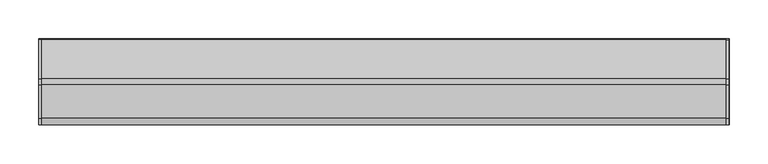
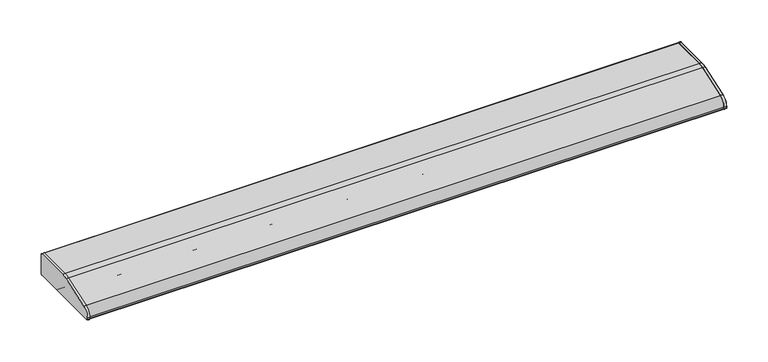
"""IFC4 building model written with IfcOpenShell, lengths in millimetres: light fixture geometry, HermanMiller_SupplementalProducts_G6136_UtilityTaskLight : AO Etho Canvas 42W."""

from ifc_helpers import new_model, si_unit, point, frame, frame_2d, origin, place, context, project, spatial, polyline, circle_curve, trimmed, segment, composite_curve, outline, extrude, source, transform, mapped, element, save


def light_fixture_d51b2d7c(model_context):
    return source(origin(), model_context, "Body", "SweptSolid", [
        extrude(outline(composite_curve([segment(polyline([(53.975, 1321.46802), (-53.975, 1321.46802)]), True, "CONTINUOUS"), segment(trimmed(circle_curve(frame_2d((-53.975, 1323.05552)), 1.5875), [point((-53.975, 1321.46802))], [point((-55.5625, 1323.05552))], False, "CARTESIAN"), True, "CONTINUOUS"), segment(polyline([(-55.5625, 1323.05552), (-55.5625, 1325.0965914)]), True, "CONTINUOUS"), segment(trimmed(circle_curve(frame_2d((-42.8625, 1325.0965914)), 12.7), [point((-55.5625, 1325.0965914))], [point((-46.9814189, 1337.1101049))], False, "CARTESIAN"), True, "CONTINUOUS"), segment(polyline([(-46.9814189, 1337.1101049), (-4.0045045, 1351.845047)]), True, "CONTINUOUS"), segment(trimmed(circle_curve(frame_2d((4.2333333, 1327.81802)), 25.4), [point((-4.0045045, 1351.845047))], [point((4.2333333, 1353.21802))], False, "CARTESIAN"), True, "CONTINUOUS"), segment(polyline([(4.2333333, 1353.21802), (53.975, 1353.21802)]), True, "CONTINUOUS"), segment(trimmed(circle_curve(frame_2d((53.975, 1351.63052)), 1.5875), [point((53.975, 1353.21802))], [point((55.5625, 1351.63052))], False, "CARTESIAN"), True, "CONTINUOUS"), segment(polyline([(55.5625, 1351.63052), (55.5625, 1323.05552)]), True, "CONTINUOUS"), segment(trimmed(circle_curve(frame_2d((53.975, 1323.05552)), 1.5875), [point((55.5625, 1323.05552))], [point((53.975, 1321.46802))], False, "CARTESIAN"), True, "CONTINUOUS")], self_intersect=False)), frame((441.833, 0.0, 0.0), z_axis=(1.0, 0.0, 0.0), x_axis=(0.0, 1.0, 0.0)), (0.0, 0.0, 1.0), 3.175),
        extrude(outline(composite_curve([segment(trimmed(circle_curve(frame_2d((53.975, 1351.63052)), 1.5875), [point((53.975, 1353.21802))], [point((55.5625, 1351.63052))], False, "CARTESIAN"), True, "CONTINUOUS"), segment(polyline([(55.5625, 1351.63052), (55.5625, 1323.05552)]), True, "CONTINUOUS"), segment(trimmed(circle_curve(frame_2d((53.975, 1323.05552)), 1.5875), [point((55.5625, 1323.05552))], [point((53.975, 1321.46802))], False, "CARTESIAN"), True, "CONTINUOUS"), segment(polyline([(53.975, 1321.46802), (-53.975, 1321.46802)]), True, "CONTINUOUS"), segment(trimmed(circle_curve(frame_2d((-53.975, 1323.05552)), 1.5875), [point((-53.975, 1321.46802))], [point((-55.5625, 1323.05552))], False, "CARTESIAN"), True, "CONTINUOUS"), segment(polyline([(-55.5625, 1323.05552), (-55.5625, 1325.0965914)]), True, "CONTINUOUS"), segment(trimmed(circle_curve(frame_2d((-42.8625, 1325.0965914)), 12.7), [point((-55.5625, 1325.0965914))], [point((-46.9814189, 1337.1101049))], False, "CARTESIAN"), True, "CONTINUOUS"), segment(polyline([(-46.9814189, 1337.1101049), (-4.0045045, 1351.845047)]), True, "CONTINUOUS"), segment(trimmed(circle_curve(frame_2d((4.2333333, 1327.81802)), 25.4), [point((-4.0045045, 1351.845047))], [point((4.2333333, 1353.21802))], False, "CARTESIAN"), True, "CONTINUOUS"), segment(polyline([(4.2333333, 1353.21802), (53.975, 1353.21802)]), True, "CONTINUOUS")], self_intersect=False)), frame((-445.008, 0.0, 0.0), z_axis=(1.0, 0.0, 0.0), x_axis=(0.0, 1.0, 0.0)), (0.0, 0.0, 1.0), 3.175),
        extrude(outline(composite_curve([segment(polyline([(55.5625, 1351.63052), (55.5625, 1323.05552)]), True, "CONTINUOUS"), segment(trimmed(circle_curve(frame_2d((53.975, 1323.05552)), 1.5875), [point((55.5625, 1323.05552))], [point((53.975, 1321.46802))], False, "CARTESIAN"), True, "CONTINUOUS"), segment(polyline([(53.975, 1321.46802), (19.05, 1321.46802)]), True, "CONTINUOUS"), segment(trimmed(circle_curve(frame_2d((19.05, 1323.05552)), 1.5875), [point((19.05, 1321.46802))], [point((17.4625, 1323.05552))], False, "CARTESIAN"), True, "CONTINUOUS"), segment(polyline([(17.4625, 1323.05552), (17.4625, 1351.63052), (4.4979167, 1351.63052)]), True, "CONTINUOUS"), segment(trimmed(circle_curve(frame_2d((4.4979167, 1326.23052)), 25.4), [point((4.4979167, 1351.63052))], [point((-3.7399212, 1350.257547))], True, "CARTESIAN"), True, "CONTINUOUS"), segment(polyline([(-3.7399212, 1350.257547), (-37.4564189, 1338.6976049)]), True, "CONTINUOUS"), segment(trimmed(circle_curve(frame_2d((-33.3375, 1326.6840914)), 12.7), [point((-37.4564189, 1338.6976049))], [point((-46.0375, 1326.6840914))], True, "CARTESIAN"), True, "CONTINUOUS"), segment(polyline([(-46.0375, 1326.6840914), (-46.0375, 1323.05552)]), True, "CONTINUOUS"), segment(trimmed(circle_curve(frame_2d((-47.625, 1323.05552)), 1.5875), [point((-46.0375, 1323.05552))], [point((-47.625, 1321.46802))], False, "CARTESIAN"), True, "CONTINUOUS"), segment(polyline([(-47.625, 1321.46802), (-53.975, 1321.46802)]), True, "CONTINUOUS"), segment(trimmed(circle_curve(frame_2d((-53.975, 1323.05552)), 1.5875), [point((-53.975, 1321.46802))], [point((-55.5625, 1323.05552))], False, "CARTESIAN"), True, "CONTINUOUS"), segment(polyline([(-55.5625, 1323.05552), (-55.5625, 1325.0965914)]), True, "CONTINUOUS"), segment(trimmed(circle_curve(frame_2d((-42.8625, 1325.0965914)), 12.7), [point((-55.5625, 1325.0965914))], [point((-46.9814189, 1337.1101049))], False, "CARTESIAN"), True, "CONTINUOUS"), segment(polyline([(-46.9814189, 1337.1101049), (-4.0045045, 1351.845047)]), True, "CONTINUOUS"), segment(trimmed(circle_curve(frame_2d((4.2333333, 1327.81802)), 25.4), [point((-4.0045045, 1351.845047))], [point((4.2333333, 1353.21802))], False, "CARTESIAN"), True, "CONTINUOUS"), segment(polyline([(4.2333333, 1353.21802), (53.975, 1353.21802)]), True, "CONTINUOUS"), segment(trimmed(circle_curve(frame_2d((53.975, 1351.63052)), 1.5875), [point((53.975, 1353.21802))], [point((55.5625, 1351.63052))], False, "CARTESIAN"), True, "CONTINUOUS")], self_intersect=False)), frame((-445.008, 0.0, 0.0), z_axis=(1.0, 0.0, 0.0), x_axis=(0.0, 1.0, 0.0)), (0.0, 0.0, 1.0), 890.4820011),
        extrude(outline(composite_curve([segment(trimmed(circle_curve(frame_2d((1.5875, 1338.93052)), 9.525), [point((-7.9375, 1338.93052))], [point((11.1125, 1338.93052))], False, "CARTESIAN"), True, "CONTINUOUS"), segment(trimmed(circle_curve(frame_2d((1.5875, 1338.93052)), 9.525), [point((11.1125, 1338.93052))], [point((-7.9375, 1338.93052))], False, "CARTESIAN"), True, "CONTINUOUS")], self_intersect=False)), frame((419.608, 0.0, 0.0), z_axis=(1.0, 0.0, 0.0), x_axis=(0.0, 1.0, 0.0)), (0.0, 0.0, 1.0), 12.7),
        extrude(outline(composite_curve([segment(trimmed(circle_curve(frame_2d((1.5875, 1338.93052)), 9.525), [point((-7.9375, 1338.93052))], [point((11.1125, 1338.93052))], False, "CARTESIAN"), True, "CONTINUOUS"), segment(trimmed(circle_curve(frame_2d((1.5875, 1338.93052)), 9.525), [point((11.1125, 1338.93052))], [point((-7.9375, 1338.93052))], False, "CARTESIAN"), True, "CONTINUOUS")], self_intersect=False)), frame((-432.308, 0.0, 0.0), z_axis=(1.0, 0.0, 0.0), x_axis=(0.0, 1.0, 0.0)), (0.0, 0.0, 1.0), 12.7),
        extrude(outline(composite_curve([segment(trimmed(circle_curve(frame_2d((1.5875, 1338.93052)), 9.525), [point((-7.9375, 1338.93052))], [point((11.1125, 1338.93052))], False, "CARTESIAN"), True, "CONTINUOUS"), segment(trimmed(circle_curve(frame_2d((1.5875, 1338.93052)), 9.525), [point((11.1125, 1338.93052))], [point((-7.9375, 1338.93052))], False, "CARTESIAN"), True, "CONTINUOUS")], self_intersect=False)), frame((-419.608, 0.0, 0.0), z_axis=(1.0, 0.0, 0.0), x_axis=(0.0, 1.0, 0.0)), (0.0, 0.0, 1.0), 839.216),
        extrude(outline(composite_curve([segment(polyline([(17.4625, 1324.64302), (-46.0375, 1324.64302), (-46.0375, 1326.6840914)]), True, "CONTINUOUS"), segment(trimmed(circle_curve(frame_2d((-33.3375, 1326.6840914)), 12.7), [point((-46.0375, 1326.6840914))], [point((-37.4564189, 1338.6976049))], False, "CARTESIAN"), True, "CONTINUOUS"), segment(polyline([(-37.4564189, 1338.6976049), (-3.7399212, 1350.257547)]), True, "CONTINUOUS"), segment(trimmed(circle_curve(frame_2d((4.4979167, 1326.23052)), 25.4), [point((-3.7399212, 1350.257547))], [point((4.4979167, 1351.63052))], False, "CARTESIAN"), True, "CONTINUOUS"), segment(polyline([(4.4979167, 1351.63052), (17.4625, 1351.63052), (17.4625, 1324.64302)]), True, "CONTINUOUS")], self_intersect=False)), frame((432.308, 0.0, 0.0), z_axis=(1.0, 0.0, 0.0), x_axis=(0.0, 1.0, 0.0)), (0.0, 0.0, 1.0), 9.525),
        extrude(outline(composite_curve([segment(polyline([(17.4625, 1324.64302), (-46.0375, 1324.64302), (-46.0375, 1326.6840914)]), True, "CONTINUOUS"), segment(trimmed(circle_curve(frame_2d((-33.3375, 1326.6840914)), 12.7), [point((-46.0375, 1326.6840914))], [point((-37.4564189, 1338.6976049))], False, "CARTESIAN"), True, "CONTINUOUS"), segment(polyline([(-37.4564189, 1338.6976049), (-3.7399212, 1350.257547)]), True, "CONTINUOUS"), segment(trimmed(circle_curve(frame_2d((4.4979167, 1326.23052)), 25.4), [point((-3.7399212, 1350.257547))], [point((4.4979167, 1351.63052))], False, "CARTESIAN"), True, "CONTINUOUS"), segment(polyline([(4.4979167, 1351.63052), (17.4625, 1351.63052), (17.4625, 1324.64302)]), True, "CONTINUOUS")], self_intersect=False)), frame((-441.833, 0.0, 0.0), z_axis=(1.0, 0.0, 0.0), x_axis=(0.0, 1.0, 0.0)), (0.0, 0.0, 1.0), 9.525),
    ])


if __name__ == "__main__":
    model = new_model("IFC4")
    model_context = context("Model", 3, world=origin())
    ifc_project = project(units=[si_unit("LENGTHUNIT", "METRE", prefix="MILLI")], contexts=[model_context])
    site = spatial("IfcSite", under=ifc_project)
    building = spatial("IfcBuilding", under=site)
    placement = place(None, origin())
    light_fixture_shape = light_fixture_d51b2d7c(model_context)
    element("IfcLightFixture", 1, ObjectType="HermanMiller_SupplementalProducts_G6136_UtilityTaskLight : AO Etho Canvas 42W", at=placement, inside=building, context=model_context, shape_type="MappedRepresentation", body=[
        mapped(light_fixture_shape, transform((0.0, 0.0, 0.0), x_axis=(1.0, 0.0, 0.0), y_axis=(0.0, 1.0, 0.0), z_axis=(0.0, 0.0, 1.0))),
    ])
    save(model, "model.ifc")
